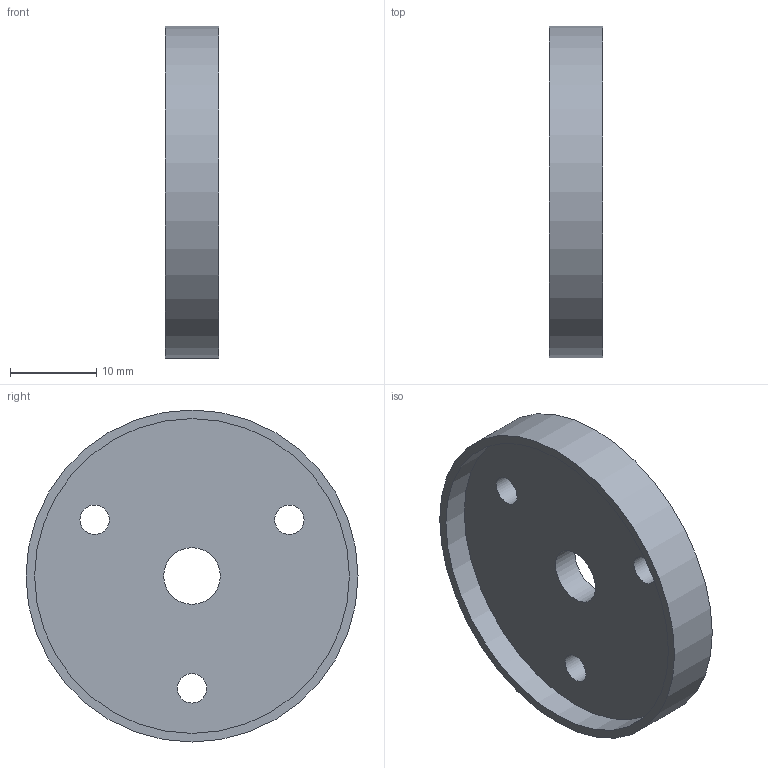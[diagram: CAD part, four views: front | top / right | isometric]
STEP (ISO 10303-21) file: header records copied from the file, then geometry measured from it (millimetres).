
FILE_DESCRIPTION(('Open CASCADE Model'),'2;1');
FILE_NAME('Open CASCADE Shape Model','2026-10-05T06:01:11',('Author'),( 'Open CASCADE'),'Open CASCADE STEP processor 7.8','Open CASCADE 7.8' ,'Unknown');
FILE_SCHEMA(('AUTOMOTIVE_DESIGN { 1 0 10303 214 1 1 1 1 }'));
Length unit declared in the file: millimetre
Products named in the file (1): Open CASCADE STEP translator 7.8 12
Bounding box: 6.17 x 38.4 x 38.4 mm (x, y, z)
Volume: 3801.4 mm3; surface area: 3463.6 mm2
Topology: 1 solids, 1 shells, 15 faces, 27 edges, 18 vertices
Faces by surface type: cylinder 9, plane 6
Full cylindrical faces by diameter (mm): 3.4 x3, 6.4 x3, 6.55 x1, 36.4 x1, 38.4 x1
Entity records: 777 total; most frequent: CARTESIAN_POINT 157, DIRECTION 124, ORIENTED_EDGE 54, PCURVE 54, DEFINITIONAL_REPRESENTATION 54, LINE 45, VECTOR 45, AXIS2_PLACEMENT_3D 34
